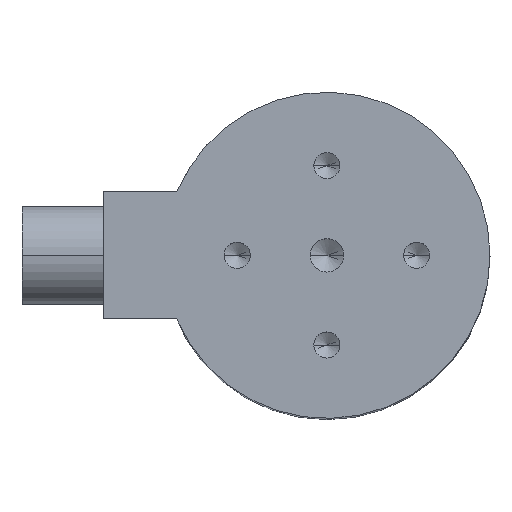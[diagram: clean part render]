
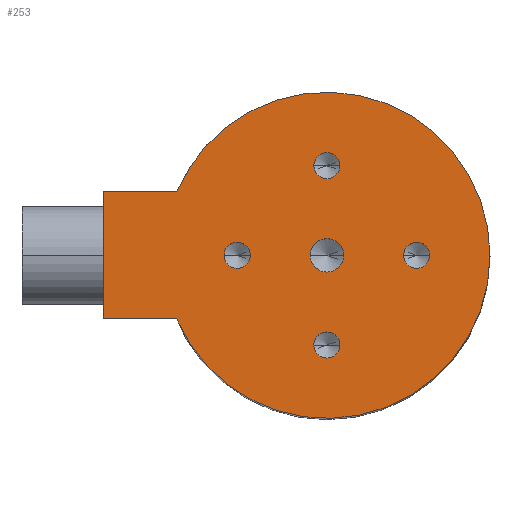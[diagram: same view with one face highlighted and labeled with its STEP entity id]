
A CAD part, top view. The second image highlights one B-rep face of the part: STEP entity #253.
In plain terms, the highlighted planar face has unit normal (0, 0, 1).
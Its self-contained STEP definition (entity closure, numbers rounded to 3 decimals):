
#3 = EDGE_LOOP ( 'NONE', ( #1059, #383 ) ) ;
#8 = EDGE_CURVE ( 'NONE', #1155, #1239, #478, .T. ) ;
#17 = EDGE_LOOP ( 'NONE', ( #726, #147, #356, #1299, #899 ) ) ;
#49 = DIRECTION ( 'NONE',  ( 0., 0., -1. ) ) ;
#65 = CIRCLE ( 'NONE', #808, 10. ) ;
#69 = CARTESIAN_POINT ( 'NONE',  ( -9.208, 3.9, 0. ) ) ;
#109 = EDGE_CURVE ( 'NONE', #1031, #433, #65, .T. ) ;
#118 = AXIS2_PLACEMENT_3D ( 'NONE', #524, #1052, #737 ) ;
#131 = ORIENTED_EDGE ( 'NONE', *, *, #512, .F. ) ;
#147 = ORIENTED_EDGE ( 'NONE', *, *, #109, .T. ) ;
#160 = CIRCLE ( 'NONE', #740, 0.8 ) ;
#163 = DIRECTION ( 'NONE',  ( 0., 0., 1. ) ) ;
#178 = EDGE_CURVE ( 'NONE', #207, #1031, #1130, .T. ) ;
#180 = CARTESIAN_POINT ( 'NONE',  ( -13.7, 3.9, 0. ) ) ;
#182 = CIRCLE ( 'NONE', #1199, 1.025 ) ;
#194 = CARTESIAN_POINT ( 'NONE',  ( 0.8, -5.5, 0. ) ) ;
#198 = AXIS2_PLACEMENT_3D ( 'NONE', #1187, #1272, #643 ) ;
#205 = AXIS2_PLACEMENT_3D ( 'NONE', #284, #1116, #1218 ) ;
#207 = VERTEX_POINT ( 'NONE', #431 ) ;
#214 = VECTOR ( 'NONE', #245, 1000. ) ;
#217 = EDGE_CURVE ( 'NONE', #806, #628, #330, .T. ) ;
#222 = ORIENTED_EDGE ( 'NONE', *, *, #797, .F. ) ;
#231 = CARTESIAN_POINT ( 'NONE',  ( 0., 0., 0. ) ) ;
#245 = DIRECTION ( 'NONE',  ( 0., -1., 0. ) ) ;
#252 = CARTESIAN_POINT ( 'NONE',  ( 0.8, 5.5, 0. ) ) ;
#253 = ADVANCED_FACE ( 'NONE', ( #1257, #378, #502, #1206, #690, #276 ), #870, .F. ) ;
#254 = DIRECTION ( 'NONE',  ( 0., 0., 1. ) ) ;
#261 = DIRECTION ( 'NONE',  ( -1., 0., 0. ) ) ;
#275 = DIRECTION ( 'NONE',  ( 0., 0., 1. ) ) ;
#276 = FACE_OUTER_BOUND ( 'NONE', #17, .T. ) ;
#284 = CARTESIAN_POINT ( 'NONE',  ( 0., 0., 0. ) ) ;
#294 = CARTESIAN_POINT ( 'NONE',  ( -1.025, 0., 0. ) ) ;
#330 = CIRCLE ( 'NONE', #1072, 0.8 ) ;
#332 = DIRECTION ( 'NONE',  ( 1., 0., 0. ) ) ;
#356 = ORIENTED_EDGE ( 'NONE', *, *, #595, .T. ) ;
#371 = CARTESIAN_POINT ( 'NONE',  ( -0.8, 5.5, 0. ) ) ;
#378 = FACE_BOUND ( 'NONE', #3, .T. ) ;
#379 = EDGE_CURVE ( 'NONE', #1007, #1242, #998, .T. ) ;
#383 = ORIENTED_EDGE ( 'NONE', *, *, #8, .F. ) ;
#388 = DIRECTION ( 'NONE',  ( 1., 0., 0. ) ) ;
#407 = DIRECTION ( 'NONE',  ( 0., 0., 1. ) ) ;
#431 = CARTESIAN_POINT ( 'NONE',  ( -9.208, -3.9, 0. ) ) ;
#433 = VERTEX_POINT ( 'NONE', #69 ) ;
#446 = CARTESIAN_POINT ( 'NONE',  ( 10., 0., 0. ) ) ;
#451 = VERTEX_POINT ( 'NONE', #1227 ) ;
#455 = VECTOR ( 'NONE', #1210, 1000. ) ;
#464 = EDGE_CURVE ( 'NONE', #621, #529, #1082, .T. ) ;
#478 = CIRCLE ( 'NONE', #558, 0.8 ) ;
#483 = EDGE_LOOP ( 'NONE', ( #1230, #942 ) ) ;
#502 = FACE_BOUND ( 'NONE', #990, .T. ) ;
#509 = DIRECTION ( 'NONE',  ( 1., 0., 0. ) ) ;
#512 = EDGE_CURVE ( 'NONE', #1274, #811, #776, .T. ) ;
#524 = CARTESIAN_POINT ( 'NONE',  ( 0., 0., 0. ) ) ;
#529 = VERTEX_POINT ( 'NONE', #810 ) ;
#530 = EDGE_CURVE ( 'NONE', #811, #1274, #160, .T. ) ;
#531 = LINE ( 'NONE', #745, #994 ) ;
#558 = AXIS2_PLACEMENT_3D ( 'NONE', #1036, #728, #1245 ) ;
#587 = ORIENTED_EDGE ( 'NONE', *, *, #217, .F. ) ;
#595 = EDGE_CURVE ( 'NONE', #433, #1328, #775, .T. ) ;
#608 = CARTESIAN_POINT ( 'NONE',  ( 0., -5.5, 0. ) ) ;
#621 = VERTEX_POINT ( 'NONE', #294 ) ;
#628 = VERTEX_POINT ( 'NONE', #1232 ) ;
#629 = CARTESIAN_POINT ( 'NONE',  ( 0., -5.5, 0. ) ) ;
#639 = AXIS2_PLACEMENT_3D ( 'NONE', #608, #1219, #1138 ) ;
#642 = DIRECTION ( 'NONE',  ( 0., 0., 1. ) ) ;
#643 = DIRECTION ( 'NONE',  ( 1., 0., 0. ) ) ;
#644 = CARTESIAN_POINT ( 'NONE',  ( 6.3, 0., 0. ) ) ;
#658 = EDGE_CURVE ( 'NONE', #1239, #1155, #1204, .T. ) ;
#664 = ORIENTED_EDGE ( 'NONE', *, *, #379, .F. ) ;
#674 = CARTESIAN_POINT ( 'NONE',  ( 0., 0., 0. ) ) ;
#690 = FACE_BOUND ( 'NONE', #483, .T. ) ;
#700 = CIRCLE ( 'NONE', #639, 0.8 ) ;
#706 = CARTESIAN_POINT ( 'NONE',  ( 5.5, 0., 0. ) ) ;
#712 = DIRECTION ( 'NONE',  ( 1., 0., 0. ) ) ;
#726 = ORIENTED_EDGE ( 'NONE', *, *, #178, .T. ) ;
#728 = DIRECTION ( 'NONE',  ( 0., 0., 1. ) ) ;
#737 = DIRECTION ( 'NONE',  ( 1., 0., 0. ) ) ;
#739 = ORIENTED_EDGE ( 'NONE', *, *, #906, .F. ) ;
#740 = AXIS2_PLACEMENT_3D ( 'NONE', #1120, #902, #712 ) ;
#745 = CARTESIAN_POINT ( 'NONE',  ( -13.7, -3.9, 0. ) ) ;
#764 = CARTESIAN_POINT ( 'NONE',  ( -4.7, 0., 0. ) ) ;
#775 = LINE ( 'NONE', #180, #455 ) ;
#776 = CIRCLE ( 'NONE', #1118, 0.8 ) ;
#797 = EDGE_CURVE ( 'NONE', #628, #806, #700, .T. ) ;
#806 = VERTEX_POINT ( 'NONE', #194 ) ;
#808 = AXIS2_PLACEMENT_3D ( 'NONE', #231, #642, #332 ) ;
#810 = CARTESIAN_POINT ( 'NONE',  ( 1.025, 0., 0. ) ) ;
#811 = VERTEX_POINT ( 'NONE', #1135 ) ;
#870 = PLANE ( 'NONE',  #1140 ) ;
#899 = ORIENTED_EDGE ( 'NONE', *, *, #1213, .T. ) ;
#902 = DIRECTION ( 'NONE',  ( 0., 0., 1. ) ) ;
#906 = EDGE_CURVE ( 'NONE', #1242, #1007, #1305, .T. ) ;
#913 = EDGE_LOOP ( 'NONE', ( #587, #222 ) ) ;
#942 = ORIENTED_EDGE ( 'NONE', *, *, #464, .F. ) ;
#980 = DIRECTION ( 'NONE',  ( 1., 0., 0. ) ) ;
#990 = EDGE_LOOP ( 'NONE', ( #131, #1241 ) ) ;
#992 = EDGE_LOOP ( 'NONE', ( #664, #739 ) ) ;
#993 = DIRECTION ( 'NONE',  ( 1., 0., 0. ) ) ;
#994 = VECTOR ( 'NONE', #1165, 1000. ) ;
#998 = CIRCLE ( 'NONE', #1306, 0.8 ) ;
#1003 = AXIS2_PLACEMENT_3D ( 'NONE', #1040, #407, #509 ) ;
#1007 = VERTEX_POINT ( 'NONE', #764 ) ;
#1008 = EDGE_CURVE ( 'NONE', #1328, #451, #1176, .T. ) ;
#1031 = VERTEX_POINT ( 'NONE', #446 ) ;
#1036 = CARTESIAN_POINT ( 'NONE',  ( 0., 5.5, 0. ) ) ;
#1040 = CARTESIAN_POINT ( 'NONE',  ( 0., 5.5, 0. ) ) ;
#1052 = DIRECTION ( 'NONE',  ( 0., 0., 1. ) ) ;
#1055 = EDGE_CURVE ( 'NONE', #529, #621, #182, .T. ) ;
#1059 = ORIENTED_EDGE ( 'NONE', *, *, #658, .F. ) ;
#1072 = AXIS2_PLACEMENT_3D ( 'NONE', #629, #254, #1294 ) ;
#1082 = CIRCLE ( 'NONE', #205, 1.025 ) ;
#1085 = CARTESIAN_POINT ( 'NONE',  ( 0., 0., 0. ) ) ;
#1093 = CARTESIAN_POINT ( 'NONE',  ( -5.5, 0., 0. ) ) ;
#1116 = DIRECTION ( 'NONE',  ( 0., 0., 1. ) ) ;
#1118 = AXIS2_PLACEMENT_3D ( 'NONE', #706, #1220, #388 ) ;
#1120 = CARTESIAN_POINT ( 'NONE',  ( 5.5, 0., 0. ) ) ;
#1130 = CIRCLE ( 'NONE', #118, 10. ) ;
#1135 = CARTESIAN_POINT ( 'NONE',  ( 4.7, 0., 0. ) ) ;
#1138 = DIRECTION ( 'NONE',  ( 1., 0., 0. ) ) ;
#1140 = AXIS2_PLACEMENT_3D ( 'NONE', #1085, #49, #261 ) ;
#1155 = VERTEX_POINT ( 'NONE', #371 ) ;
#1165 = DIRECTION ( 'NONE',  ( 1., 0., 0. ) ) ;
#1172 = CARTESIAN_POINT ( 'NONE',  ( -13.7, 3.9, 0. ) ) ;
#1173 = CARTESIAN_POINT ( 'NONE',  ( -6.3, 0., 0. ) ) ;
#1176 = LINE ( 'NONE', #1172, #214 ) ;
#1187 = CARTESIAN_POINT ( 'NONE',  ( -5.5, 0., 0. ) ) ;
#1199 = AXIS2_PLACEMENT_3D ( 'NONE', #674, #163, #980 ) ;
#1204 = CIRCLE ( 'NONE', #1003, 0.8 ) ;
#1206 = FACE_BOUND ( 'NONE', #913, .T. ) ;
#1210 = DIRECTION ( 'NONE',  ( -1., 0., 0. ) ) ;
#1213 = EDGE_CURVE ( 'NONE', #451, #207, #531, .T. ) ;
#1218 = DIRECTION ( 'NONE',  ( 1., 0., 0. ) ) ;
#1219 = DIRECTION ( 'NONE',  ( 0., 0., 1. ) ) ;
#1220 = DIRECTION ( 'NONE',  ( 0., 0., 1. ) ) ;
#1227 = CARTESIAN_POINT ( 'NONE',  ( -13.7, -3.9, 0. ) ) ;
#1230 = ORIENTED_EDGE ( 'NONE', *, *, #1055, .F. ) ;
#1232 = CARTESIAN_POINT ( 'NONE',  ( -0.8, -5.5, 0. ) ) ;
#1239 = VERTEX_POINT ( 'NONE', #252 ) ;
#1241 = ORIENTED_EDGE ( 'NONE', *, *, #530, .F. ) ;
#1242 = VERTEX_POINT ( 'NONE', #1173 ) ;
#1245 = DIRECTION ( 'NONE',  ( 1., 0., 0. ) ) ;
#1257 = FACE_BOUND ( 'NONE', #992, .T. ) ;
#1272 = DIRECTION ( 'NONE',  ( 0., 0., 1. ) ) ;
#1274 = VERTEX_POINT ( 'NONE', #644 ) ;
#1294 = DIRECTION ( 'NONE',  ( 1., 0., 0. ) ) ;
#1299 = ORIENTED_EDGE ( 'NONE', *, *, #1008, .T. ) ;
#1303 = CARTESIAN_POINT ( 'NONE',  ( -13.7, 3.9, 0. ) ) ;
#1305 = CIRCLE ( 'NONE', #198, 0.8 ) ;
#1306 = AXIS2_PLACEMENT_3D ( 'NONE', #1093, #275, #993 ) ;
#1328 = VERTEX_POINT ( 'NONE', #1303 ) ;
